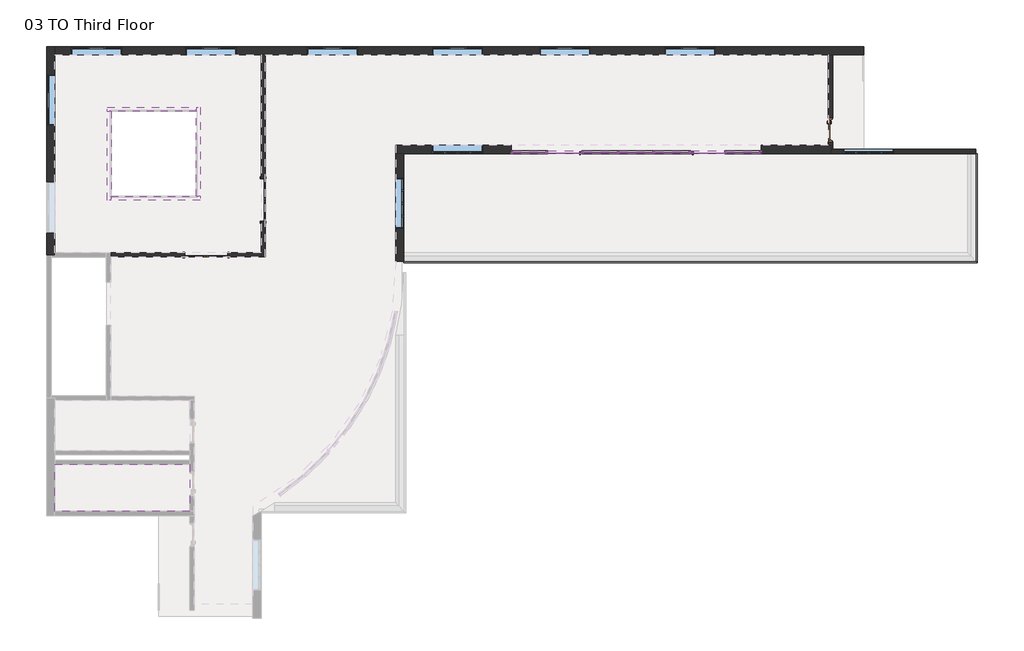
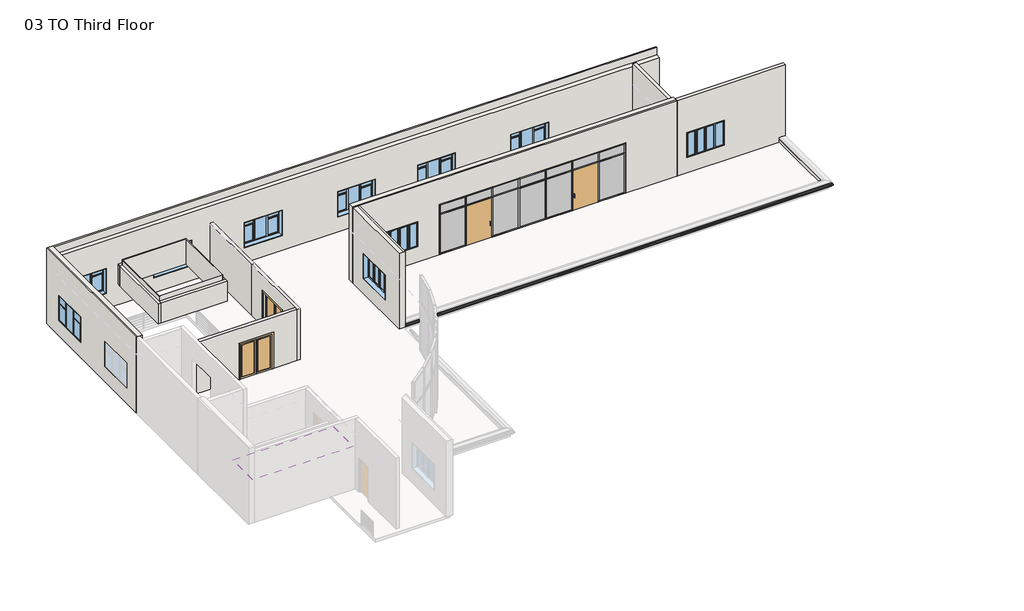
# One storey, part 2 of 3: 35 members, 15 walls, 12 plates, 10 windows, 5 doors, 2 proxies, 1 covering.
"""IFC4 building model written with IfcOpenShell, lengths in millimetres."""

from ifc_helpers import new_model, si_unit, frame, origin, place, context, project, spatial, polyline, outline, extrude, faceted_brep, transform, mapped, element, save
from components import door_curtain_wall_single_glass_single_glass_door_636c359d, door_curtain_wall_single_glass_single_glass_door_c1f067f7, door_38a2a0c9, door_c4c6d6d8, member_f0fea5a5, member_ee409385, member_5599eeff, member_9faf9a02, member_3e00a44d, member_1f7e5a3f, member_6e77e263, member_47bfaf8a, system_panel_glazed_c45153f5, system_panel_glazed_32f3d69c, system_panel_glazed_47a57bc4, system_panel_glazed_e930eb41, window_c7d59df6, window_634df5ac, window_casement_triple_side_transom_c3c25feb

model = new_model("IFC4")

# Units and contexts
model_context = context("Model", 3, world=origin())
ifc_project = project(units=[si_unit("LENGTHUNIT", "METRE", prefix="MILLI")], contexts=[model_context])

# Site, building, storey
site = spatial("IfcSite", under=ifc_project)
building = spatial("IfcBuilding", under=site)
storey = spatial("IfcBuildingStorey", under=building, Name="03 TO Third Floor", Elevation=9144.0)

# Proxies
placement = place(None, origin())
element("IfcBuildingElementProxy", 1, Name="Reveals", at=placement, inside=storey, context=model_context, shape_type="SweptSolid", body=[
    extrude(outline(polyline([(-4282.7273699, 39.4996638), (-4282.7273699, 131.5746638), (20075.8726301, 131.5746638), (20167.9476301, 39.4996638), (-4282.7273699, 39.4996638)])), frame((0.0, 0.0, 9220.2), z_axis=(0.0, 0.0, 1.0), x_axis=(1.0, 0.0, 0.0)), (0.0, 0.0, 1.0), 67.7333333),
])
element("IfcBuildingElementProxy", 2, Name="Reveals", at=placement, inside=storey, context=model_context, shape_type="SweptSolid", body=[
    extrude(outline(polyline([(20167.9476301, 39.4996638), (20075.8726301, 131.5746638), (20075.8726301, 4678.1746638), (20167.9476301, 4678.1746638), (20167.9476301, 39.4996638)])), frame((0.0, 0.0, 9220.2), z_axis=(0.0, 0.0, 1.0), x_axis=(1.0, 0.0, 0.0)), (0.0, 0.0, 1.0), 67.7333333),
])

# Covering
element("IfcCovering", 3, ObjectType="610mmx610mm ACT System", at=placement, inside=storey, context=model_context, shape_type="SweptSolid", body=[
    extrude(outline(polyline([(-13407.6773699, -10561.8253362), (-19167.1273699, -10561.8253362), (-19167.1273699, -8563.1628362), (-13407.6773699, -8563.1628362), (-13407.6773699, -10561.8253362)])), frame((0.0, 0.0, 11582.4), z_axis=(0.0, 0.0, 1.0), x_axis=(1.0, 0.0, 0.0)), (0.0, 0.0, 1.0), 57.15),
])

# Doors
door_curtain_wall_single_glass_single_glass_door_shape = door_curtain_wall_single_glass_single_glass_door_636c359d(model_context)
element("IfcDoor", 4, ObjectType="Door-Curtain-Wall-Single-Glass : Single Glass Door", at=placement, inside=storey, context=model_context, shape_type="MappedRepresentation", body=[
    mapped(door_curtain_wall_single_glass_single_glass_door_shape, transform((8671.2726299, 4741.6746638, 9144.0), x_axis=(1.0, 0.0, 0.0), y_axis=(0.0, 1.0, 0.0), z_axis=(0.0, 0.0, 1.0))),
])
door_curtain_wall_single_glass_single_glass_door_2_shape = door_curtain_wall_single_glass_single_glass_door_c1f067f7(model_context)
element("IfcDoor", 5, ObjectType="Door-Curtain-Wall-Single-Glass : Single Glass Door", at=placement, inside=storey, context=model_context, shape_type="MappedRepresentation", body=[
    mapped(door_curtain_wall_single_glass_single_glass_door_2_shape, transform((2575.2726302, 4741.6746638, 9144.0), x_axis=(-1.0, 0.0, 0.0), y_axis=(0.0, -1.0, 0.0), z_axis=(0.0, 0.0, 1.0))),
])
door_shape = door_38a2a0c9(model_context)
element("IfcDoor", 6, ObjectType="Door-Double-Glass : Door Double Glass_72\" x 84\"", at=placement, inside=storey, context=model_context, shape_type="MappedRepresentation", body=[
    mapped(door_shape, transform((-10289.0336199, 2706.4996638, 9144.0), x_axis=(0.0, -1.0, 0.0), y_axis=(1.0, 0.0, 0.0), z_axis=(0.0, 0.0, 1.0))),
])
element("IfcDoor", 7, ObjectType="Door-Double-Glass : Door Double Glass_72\" x 84\"", at=placement, inside=storey, context=model_context, shape_type="MappedRepresentation", body=[
    mapped(door_shape, transform((-12715.5273699, 372.0809138, 9144.0), x_axis=(-1.0, 0.0, 0.0), y_axis=(0.0, -1.0, 0.0), z_axis=(0.0, 0.0, 1.0))),
])
door_2_shape = door_c4c6d6d8(model_context)
element("IfcDoor", 8, ObjectType="Door-Passage-Single-Flush : Door Passage Single Flush_36\" x 80\"", at=placement, inside=storey, context=model_context, shape_type="MappedRepresentation", body=[
    mapped(door_2_shape, transform((13910.0226301, 5694.1746638, 9144.0), x_axis=(0.0, -1.0, 0.0), y_axis=(1.0, 0.0, 0.0), z_axis=(0.0, 0.0, 1.0))),
])

# Members
member_shape = member_f0fea5a5(model_context)
element("IfcMember", 9, ObjectType="Rectangular Mullion : 2.5\" x 5\" rectangular", at=placement, inside=storey, context=model_context, shape_type="MappedRepresentation", body=[
    mapped(member_shape, transform((1813.2726303, 4741.6746638, 9144.0), x_axis=(1.0, 0.0, 0.0), y_axis=(0.0, -1.0, 0.0), z_axis=(0.0, 0.0, -1.0))),
])
element("IfcMember", 10, ObjectType="Rectangular Mullion : 2.5\" x 5\" rectangular", at=placement, inside=storey, context=model_context, shape_type="MappedRepresentation", body=[
    mapped(member_shape, transform((3337.2726302, 4741.6746638, 9144.0), x_axis=(1.0, 0.0, 0.0), y_axis=(0.0, -1.0, 0.0), z_axis=(0.0, 0.0, -1.0))),
])
element("IfcMember", 11, ObjectType="Rectangular Mullion : 2.5\" x 5\" rectangular", at=placement, inside=storey, context=model_context, shape_type="MappedRepresentation", body=[
    mapped(member_shape, transform((4861.2726301, 4741.6746638, 9144.0), x_axis=(1.0, 0.0, 0.0), y_axis=(0.0, -1.0, 0.0), z_axis=(0.0, 0.0, -1.0))),
])
element("IfcMember", 12, ObjectType="Rectangular Mullion : 2.5\" x 5\" rectangular", at=placement, inside=storey, context=model_context, shape_type="MappedRepresentation", body=[
    mapped(member_shape, transform((6385.27263, 4741.6746638, 9144.0), x_axis=(1.0, 0.0, 0.0), y_axis=(0.0, -1.0, 0.0), z_axis=(0.0, 0.0, -1.0))),
])
element("IfcMember", 13, ObjectType="Rectangular Mullion : 2.5\" x 5\" rectangular", at=placement, inside=storey, context=model_context, shape_type="MappedRepresentation", body=[
    mapped(member_shape, transform((7909.2726299, 4741.6746638, 9144.0), x_axis=(1.0, 0.0, 0.0), y_axis=(0.0, -1.0, 0.0), z_axis=(0.0, 0.0, -1.0))),
])
element("IfcMember", 14, ObjectType="Rectangular Mullion : 2.5\" x 5\" rectangular", at=placement, inside=storey, context=model_context, shape_type="MappedRepresentation", body=[
    mapped(member_shape, transform((9433.2726298, 4741.6746638, 9144.0), x_axis=(1.0, 0.0, 0.0), y_axis=(0.0, -1.0, 0.0), z_axis=(0.0, 0.0, -1.0))),
])
member_2_shape = member_ee409385(model_context)
element("IfcMember", 15, ObjectType="Rectangular Mullion : 2.5\" x 5\" rectangular", at=placement, inside=storey, context=model_context, shape_type="MappedRepresentation", body=[
    mapped(member_2_shape, transform((10957.2726301, 4741.6746638, 9144.0), x_axis=(1.0, 0.0, 0.0), y_axis=(0.0, -1.0, 0.0), z_axis=(0.0, 0.0, -1.0))),
])
element("IfcMember", 16, ObjectType="Rectangular Mullion : 2.5\" x 5\" rectangular", at=placement, inside=storey, context=model_context, shape_type="MappedRepresentation", body=[
    mapped(member_2_shape, transform((289.2726301, 4741.6746638, 11582.4), x_axis=(-1.0, 0.0, 0.0), y_axis=(0.0, -1.0, 0.0), z_axis=(0.0, 0.0, 1.0))),
])
member_3_shape = member_5599eeff(model_context)
element("IfcMember", 17, ObjectType="Rectangular Mullion : 2.5\" x 5\" rectangular", at=placement, inside=storey, context=model_context, shape_type="MappedRepresentation", body=[
    mapped(member_3_shape, transform((10893.7726301, 4741.6746638, 12192.0), x_axis=(0.0, 0.0, 1.0), y_axis=(0.0, -1.0, 0.0), z_axis=(1.0, 0.0, 0.0))),
])
element("IfcMember", 18, ObjectType="Rectangular Mullion : 2.5\" x 5\" rectangular", at=placement, inside=storey, context=model_context, shape_type="MappedRepresentation", body=[
    mapped(member_3_shape, transform((1781.5226303, 4741.6746638, 12192.0), x_axis=(0.0, 0.0, 1.0), y_axis=(0.0, -1.0, 0.0), z_axis=(1.0, 0.0, 0.0))),
])
member_4_shape = member_9faf9a02(model_context)
element("IfcMember", 19, ObjectType="Rectangular Mullion : 2.5\" x 5\" rectangular", at=placement, inside=storey, context=model_context, shape_type="MappedRepresentation", body=[
    mapped(member_4_shape, transform((3305.5226302, 4741.6746638, 12192.0), x_axis=(0.0, 0.0, 1.0), y_axis=(0.0, -1.0, 0.0), z_axis=(1.0, 0.0, 0.0))),
])
element("IfcMember", 20, ObjectType="Rectangular Mullion : 2.5\" x 5\" rectangular", at=placement, inside=storey, context=model_context, shape_type="MappedRepresentation", body=[
    mapped(member_4_shape, transform((4829.5226301, 4741.6746638, 12192.0), x_axis=(0.0, 0.0, 1.0), y_axis=(0.0, -1.0, 0.0), z_axis=(1.0, 0.0, 0.0))),
])
element("IfcMember", 21, ObjectType="Rectangular Mullion : 2.5\" x 5\" rectangular", at=placement, inside=storey, context=model_context, shape_type="MappedRepresentation", body=[
    mapped(member_4_shape, transform((6353.52263, 4741.6746638, 12192.0), x_axis=(0.0, 0.0, 1.0), y_axis=(0.0, -1.0, 0.0), z_axis=(1.0, 0.0, 0.0))),
])
element("IfcMember", 22, ObjectType="Rectangular Mullion : 2.5\" x 5\" rectangular", at=placement, inside=storey, context=model_context, shape_type="MappedRepresentation", body=[
    mapped(member_4_shape, transform((7877.5226299, 4741.6746638, 12192.0), x_axis=(0.0, 0.0, 1.0), y_axis=(0.0, -1.0, 0.0), z_axis=(1.0, 0.0, 0.0))),
])
element("IfcMember", 23, ObjectType="Rectangular Mullion : 2.5\" x 5\" rectangular", at=placement, inside=storey, context=model_context, shape_type="MappedRepresentation", body=[
    mapped(member_4_shape, transform((9401.5226298, 4741.6746638, 12192.0), x_axis=(0.0, 0.0, 1.0), y_axis=(0.0, -1.0, 0.0), z_axis=(1.0, 0.0, 0.0))),
])
element("IfcMember", 24, ObjectType="Rectangular Mullion : 2.5\" x 5\" rectangular", at=placement, inside=storey, context=model_context, shape_type="MappedRepresentation", body=[
    mapped(member_3_shape, transform((352.7726301, 4741.6746638, 9144.0), x_axis=(0.0, 0.0, -1.0), y_axis=(0.0, -1.0, 0.0), z_axis=(-1.0, 0.0, 0.0))),
])
element("IfcMember", 25, ObjectType="Rectangular Mullion : 2.5\" x 5\" rectangular", at=placement, inside=storey, context=model_context, shape_type="MappedRepresentation", body=[
    mapped(member_3_shape, transform((9465.0226298, 4741.6746638, 9144.0), x_axis=(0.0, 0.0, -1.0), y_axis=(0.0, -1.0, 0.0), z_axis=(-1.0, 0.0, 0.0))),
])
element("IfcMember", 26, ObjectType="Rectangular Mullion : 2.5\" x 5\" rectangular", at=placement, inside=storey, context=model_context, shape_type="MappedRepresentation", body=[
    mapped(member_4_shape, transform((3369.0226302, 4741.6746638, 9144.0), x_axis=(0.0, 0.0, -1.0), y_axis=(0.0, -1.0, 0.0), z_axis=(-1.0, 0.0, 0.0))),
])
element("IfcMember", 27, ObjectType="Rectangular Mullion : 2.5\" x 5\" rectangular", at=placement, inside=storey, context=model_context, shape_type="MappedRepresentation", body=[
    mapped(member_4_shape, transform((4893.0226301, 4741.6746638, 9144.0), x_axis=(0.0, 0.0, -1.0), y_axis=(0.0, -1.0, 0.0), z_axis=(-1.0, 0.0, 0.0))),
])
element("IfcMember", 28, ObjectType="Rectangular Mullion : 2.5\" x 5\" rectangular", at=placement, inside=storey, context=model_context, shape_type="MappedRepresentation", body=[
    mapped(member_4_shape, transform((6417.02263, 4741.6746638, 9144.0), x_axis=(0.0, 0.0, -1.0), y_axis=(0.0, -1.0, 0.0), z_axis=(-1.0, 0.0, 0.0))),
])
member_5_shape = member_3e00a44d(model_context)
element("IfcMember", 29, ObjectType="Rectangular Mullion : 2.5\" x 5\" rectangular", at=placement, inside=storey, context=model_context, shape_type="MappedRepresentation", body=[
    mapped(member_5_shape, transform((1781.5226303, 4741.6746638, 11582.4), x_axis=(0.0, 0.0, 1.0), y_axis=(0.0, -1.0, 0.0), z_axis=(1.0, 0.0, 0.0))),
])
element("IfcMember", 30, ObjectType="Rectangular Mullion : 2.5\" x 5\" rectangular", at=placement, inside=storey, context=model_context, shape_type="MappedRepresentation", body=[
    mapped(member_5_shape, transform((10893.7726301, 4741.6746638, 11582.4), x_axis=(0.0, 0.0, 1.0), y_axis=(0.0, -1.0, 0.0), z_axis=(1.0, 0.0, 0.0))),
])
member_6_shape = member_1f7e5a3f(model_context)
element("IfcMember", 31, ObjectType="Rectangular Mullion : 2.5\" x 5\" rectangular", at=placement, inside=storey, context=model_context, shape_type="MappedRepresentation", body=[
    mapped(member_6_shape, transform((3305.5226302, 4741.6746638, 11582.4), x_axis=(0.0, 0.0, 1.0), y_axis=(0.0, -1.0, 0.0), z_axis=(1.0, 0.0, 0.0))),
])
element("IfcMember", 32, ObjectType="Rectangular Mullion : 2.5\" x 5\" rectangular", at=placement, inside=storey, context=model_context, shape_type="MappedRepresentation", body=[
    mapped(member_6_shape, transform((4829.5226301, 4741.6746638, 11582.4), x_axis=(0.0, 0.0, 1.0), y_axis=(0.0, -1.0, 0.0), z_axis=(1.0, 0.0, 0.0))),
])
element("IfcMember", 33, ObjectType="Rectangular Mullion : 2.5\" x 5\" rectangular", at=placement, inside=storey, context=model_context, shape_type="MappedRepresentation", body=[
    mapped(member_6_shape, transform((6353.52263, 4741.6746638, 11582.4), x_axis=(0.0, 0.0, 1.0), y_axis=(0.0, -1.0, 0.0), z_axis=(1.0, 0.0, 0.0))),
])
element("IfcMember", 34, ObjectType="Rectangular Mullion : 2.5\" x 5\" rectangular", at=placement, inside=storey, context=model_context, shape_type="MappedRepresentation", body=[
    mapped(member_6_shape, transform((7877.5226299, 4741.6746638, 11582.4), x_axis=(0.0, 0.0, 1.0), y_axis=(0.0, -1.0, 0.0), z_axis=(1.0, 0.0, 0.0))),
])
element("IfcMember", 35, ObjectType="Rectangular Mullion : 2.5\" x 5\" rectangular", at=placement, inside=storey, context=model_context, shape_type="MappedRepresentation", body=[
    mapped(member_6_shape, transform((9401.5226298, 4741.6746638, 11582.4), x_axis=(0.0, 0.0, 1.0), y_axis=(0.0, -1.0, 0.0), z_axis=(1.0, 0.0, 0.0))),
])
member_7_shape = member_6e77e263(model_context)
element("IfcMember", 36, ObjectType="Rectangular Mullion : 2.5\" x 5\" rectangular", at=placement, inside=storey, context=model_context, shape_type="MappedRepresentation", body=[
    mapped(member_7_shape, transform((1813.2726303, 4741.6746638, 11582.4), x_axis=(1.0, 0.0, 0.0), y_axis=(0.0, -1.0, 0.0), z_axis=(0.0, 0.0, -1.0))),
])
element("IfcMember", 37, ObjectType="Rectangular Mullion : 2.5\" x 5\" rectangular", at=placement, inside=storey, context=model_context, shape_type="MappedRepresentation", body=[
    mapped(member_7_shape, transform((3337.2726302, 4741.6746638, 11582.4), x_axis=(1.0, 0.0, 0.0), y_axis=(0.0, -1.0, 0.0), z_axis=(0.0, 0.0, -1.0))),
])
element("IfcMember", 38, ObjectType="Rectangular Mullion : 2.5\" x 5\" rectangular", at=placement, inside=storey, context=model_context, shape_type="MappedRepresentation", body=[
    mapped(member_7_shape, transform((4861.2726301, 4741.6746638, 11582.4), x_axis=(1.0, 0.0, 0.0), y_axis=(0.0, -1.0, 0.0), z_axis=(0.0, 0.0, -1.0))),
])
element("IfcMember", 39, ObjectType="Rectangular Mullion : 2.5\" x 5\" rectangular", at=placement, inside=storey, context=model_context, shape_type="MappedRepresentation", body=[
    mapped(member_7_shape, transform((6385.27263, 4741.6746638, 11582.4), x_axis=(1.0, 0.0, 0.0), y_axis=(0.0, -1.0, 0.0), z_axis=(0.0, 0.0, -1.0))),
])
element("IfcMember", 40, ObjectType="Rectangular Mullion : 2.5\" x 5\" rectangular", at=placement, inside=storey, context=model_context, shape_type="MappedRepresentation", body=[
    mapped(member_7_shape, transform((7909.2726299, 4741.6746638, 11582.4), x_axis=(1.0, 0.0, 0.0), y_axis=(0.0, -1.0, 0.0), z_axis=(0.0, 0.0, -1.0))),
])
element("IfcMember", 41, ObjectType="Rectangular Mullion : 2.5\" x 5\" rectangular", at=placement, inside=storey, context=model_context, shape_type="MappedRepresentation", body=[
    mapped(member_7_shape, transform((9433.2726298, 4741.6746638, 11582.4), x_axis=(1.0, 0.0, 0.0), y_axis=(0.0, -1.0, 0.0), z_axis=(0.0, 0.0, -1.0))),
])
member_8_shape = member_47bfaf8a(model_context)
element("IfcMember", 42, ObjectType="Rectangular Mullion : 2.5\" x 5\" rectangular", at=placement, inside=storey, context=model_context, shape_type="MappedRepresentation", body=[
    mapped(member_8_shape, transform((10957.2726301, 4741.6746638, 11582.4), x_axis=(1.0, 0.0, 0.0), y_axis=(0.0, -1.0, 0.0), z_axis=(0.0, 0.0, -1.0))),
])
element("IfcMember", 43, ObjectType="Rectangular Mullion : 2.5\" x 5\" rectangular", at=placement, inside=storey, context=model_context, shape_type="MappedRepresentation", body=[
    mapped(member_8_shape, transform((289.2726301, 4741.6746638, 12192.0), x_axis=(-1.0, 0.0, 0.0), y_axis=(0.0, -1.0, 0.0), z_axis=(0.0, 0.0, 1.0))),
])

# Plates
system_panel_glazed_shape = system_panel_glazed_c45153f5(model_context)
element("IfcPlate", 44, ObjectType="System Panel : Glazed", at=placement, inside=storey, context=model_context, shape_type="MappedRepresentation", body=[
    mapped(system_panel_glazed_shape, transform((1067.1476302, 4741.6746638, 9207.5), x_axis=(1.0, 0.0, 0.0), y_axis=(0.0, 1.0, 0.0), z_axis=(0.0, 0.0, 1.0))),
])
element("IfcPlate", 45, ObjectType="System Panel : Glazed", at=placement, inside=storey, context=model_context, shape_type="MappedRepresentation", body=[
    mapped(system_panel_glazed_shape, transform((10179.3976299, 4741.6746638, 9207.5), x_axis=(1.0, 0.0, 0.0), y_axis=(0.0, 1.0, 0.0), z_axis=(0.0, 0.0, 1.0))),
])
system_panel_glazed_2_shape = system_panel_glazed_32f3d69c(model_context)
element("IfcPlate", 46, ObjectType="System Panel : Glazed", at=placement, inside=storey, context=model_context, shape_type="MappedRepresentation", body=[
    mapped(system_panel_glazed_2_shape, transform((4099.2726301, 4741.6746638, 9207.5), x_axis=(1.0, 0.0, 0.0), y_axis=(0.0, 1.0, 0.0), z_axis=(0.0, 0.0, 1.0))),
])
element("IfcPlate", 47, ObjectType="System Panel : Glazed", at=placement, inside=storey, context=model_context, shape_type="MappedRepresentation", body=[
    mapped(system_panel_glazed_2_shape, transform((5623.2726301, 4741.6746638, 9207.5), x_axis=(1.0, 0.0, 0.0), y_axis=(0.0, 1.0, 0.0), z_axis=(0.0, 0.0, 1.0))),
])
element("IfcPlate", 48, ObjectType="System Panel : Glazed", at=placement, inside=storey, context=model_context, shape_type="MappedRepresentation", body=[
    mapped(system_panel_glazed_2_shape, transform((7147.27263, 4741.6746638, 9207.5), x_axis=(1.0, 0.0, 0.0), y_axis=(0.0, 1.0, 0.0), z_axis=(0.0, 0.0, 1.0))),
])
system_panel_glazed_3_shape = system_panel_glazed_47a57bc4(model_context)
element("IfcPlate", 49, ObjectType="System Panel : Glazed", at=placement, inside=storey, context=model_context, shape_type="MappedRepresentation", body=[
    mapped(system_panel_glazed_3_shape, transform((1067.1476302, 4741.6746638, 11614.15), x_axis=(1.0, 0.0, 0.0), y_axis=(0.0, 1.0, 0.0), z_axis=(0.0, 0.0, 1.0))),
])
element("IfcPlate", 50, ObjectType="System Panel : Glazed", at=placement, inside=storey, context=model_context, shape_type="MappedRepresentation", body=[
    mapped(system_panel_glazed_3_shape, transform((10179.3976299, 4741.6746638, 11614.15), x_axis=(1.0, 0.0, 0.0), y_axis=(0.0, 1.0, 0.0), z_axis=(0.0, 0.0, 1.0))),
])
system_panel_glazed_4_shape = system_panel_glazed_e930eb41(model_context)
element("IfcPlate", 51, ObjectType="System Panel : Glazed", at=placement, inside=storey, context=model_context, shape_type="MappedRepresentation", body=[
    mapped(system_panel_glazed_4_shape, transform((2575.2726302, 4741.6746638, 11614.15), x_axis=(1.0, 0.0, 0.0), y_axis=(0.0, 1.0, 0.0), z_axis=(0.0, 0.0, 1.0))),
])
element("IfcPlate", 52, ObjectType="System Panel : Glazed", at=placement, inside=storey, context=model_context, shape_type="MappedRepresentation", body=[
    mapped(system_panel_glazed_4_shape, transform((4099.2726301, 4741.6746638, 11614.15), x_axis=(1.0, 0.0, 0.0), y_axis=(0.0, 1.0, 0.0), z_axis=(0.0, 0.0, 1.0))),
])
element("IfcPlate", 53, ObjectType="System Panel : Glazed", at=placement, inside=storey, context=model_context, shape_type="MappedRepresentation", body=[
    mapped(system_panel_glazed_4_shape, transform((5623.2726301, 4741.6746638, 11614.15), x_axis=(1.0, 0.0, 0.0), y_axis=(0.0, 1.0, 0.0), z_axis=(0.0, 0.0, 1.0))),
])
element("IfcPlate", 54, ObjectType="System Panel : Glazed", at=placement, inside=storey, context=model_context, shape_type="MappedRepresentation", body=[
    mapped(system_panel_glazed_4_shape, transform((7147.27263, 4741.6746638, 11614.15), x_axis=(1.0, 0.0, 0.0), y_axis=(0.0, 1.0, 0.0), z_axis=(0.0, 0.0, 1.0))),
])
element("IfcPlate", 55, ObjectType="System Panel : Glazed", at=placement, inside=storey, context=model_context, shape_type="MappedRepresentation", body=[
    mapped(system_panel_glazed_4_shape, transform((8671.2726299, 4741.6746638, 11614.15), x_axis=(1.0, 0.0, 0.0), y_axis=(0.0, 1.0, 0.0), z_axis=(0.0, 0.0, 1.0))),
])

# Walls
element("IfcWall", 56, ObjectType="Ext Wall_Brick on CIP", at=placement, inside=storey, context=model_context, shape_type="Brep", body=[
    faceted_brep([(13903.6726301, 4678.1746638, 13716.0), (13903.6726301, 4678.1746638, 9144.0), (20101.2726301, 4678.1746638, 9144.0), (20101.2726301, 4678.1746638, 13716.0), (14449.7726301, 4678.1746638, 11582.4), (16608.7726301, 4678.1746638, 11582.4), (16608.7726301, 4678.1746638, 10058.4), (14449.7726301, 4678.1746638, 10058.4), (13903.6726301, 4881.3746638, 9144.0), (13903.6726301, 4881.3746638, 13411.2), (13903.6726301, 4881.3746638, 13716.0), (20101.2726301, 4881.3746638, 13716.0), (20101.2726301, 4881.3746638, 9144.0), (14005.2726301, 4881.3746638, 9144.0), (14449.7726301, 4881.3746638, 11582.4), (14449.7726301, 4881.3746638, 10058.4), (16608.7726301, 4881.3746638, 10058.4), (16608.7726301, 4881.3746638, 11582.4)], [[[0, 1, 2, 3], [4, 5, 6, 7]], [[8, 9, 10, 11, 12, 13], [14, 15, 16, 17]], [[2, 1, 8, 13, 12]], [[0, 3, 11, 10]], [[0, 10, 9, 8, 1]], [[15, 14, 4, 7]], [[16, 15, 7, 6]], [[17, 16, 6, 5]], [[14, 17, 5, 4]], [[3, 2, 12, 11]]]),
])
element("IfcWall", 57, ObjectType="Ext Wall_Brick on CMU", at=placement, inside=storey, context=model_context, shape_type="Brep", body=[
    faceted_brep([(-19167.1273699, 8894.5746638, 9144.0), (-10378.7273699, 8894.5746638, 9144.0), (-10331.1023699, 8894.5746638, 9144.0), (-10194.5773699, 8894.5746638, 9144.0), (15326.0726301, 8894.5746638, 9144.0), (15326.0726301, 8894.5746638, 13258.8), (-19167.1273699, 8894.5746638, 13258.8), (8988.7726301, 8894.5746638, 11582.4), (8988.7726301, 8894.5746638, 10058.4), (6829.7726301, 8894.5746638, 10058.4), (6829.7726301, 8894.5746638, 11582.4), (3654.7726301, 8894.5746638, 11582.4), (3654.7726301, 8894.5746638, 10058.4), (1495.7726301, 8894.5746638, 10058.4), (1495.7726301, 8894.5746638, 11582.4), (-917.2273699, 8894.5746638, 11582.4), (-917.2273699, 8894.5746638, 10058.4), (-3076.2273699, 8894.5746638, 10058.4), (-3076.2273699, 8894.5746638, 11582.4), (-16309.6273699, 8894.5746638, 11582.4), (-16309.6273699, 8894.5746638, 10058.4), (-18468.6273699, 8894.5746638, 10058.4), (-18468.6273699, 8894.5746638, 11582.4), (-11432.8273699, 8894.5746638, 11582.4), (-11432.8273699, 8894.5746638, 10058.4), (-13591.8273699, 8894.5746638, 10058.4), (-13591.8273699, 8894.5746638, 11582.4), (-6251.2273699, 8894.5746638, 11582.4), (-6251.2273699, 8894.5746638, 10058.4), (-8410.2273699, 8894.5746638, 10058.4), (-8410.2273699, 8894.5746638, 11582.4), (-19167.1273699, 9250.1746638, 9144.0), (-19167.1273699, 9250.1746638, 13716.0), (15326.0726301, 9250.1746638, 13716.0), (15326.0726301, 9250.1746638, 9144.0), (-10331.1023699, 9250.1746638, 9144.0), (8988.7726301, 9250.1746638, 11582.4), (6829.7726301, 9250.1746638, 11582.4), (6829.7726301, 9250.1746638, 10058.4), (8988.7726301, 9250.1746638, 10058.4), (3654.7726301, 9250.1746638, 11582.4), (1495.7726301, 9250.1746638, 11582.4), (1495.7726301, 9250.1746638, 10058.4), (3654.7726301, 9250.1746638, 10058.4), (-917.2273699, 9250.1746638, 11582.4), (-3076.2273699, 9250.1746638, 11582.4), (-3076.2273699, 9250.1746638, 10058.4), (-917.2273699, 9250.1746638, 10058.4), (-16309.6273699, 9250.1746638, 11582.4), (-18468.6273699, 9250.1746638, 11582.4), (-18468.6273699, 9250.1746638, 10058.4), (-16309.6273699, 9250.1746638, 10058.4), (-11432.8273699, 9250.1746638, 11582.4), (-13591.8273699, 9250.1746638, 11582.4), (-13591.8273699, 9250.1746638, 10058.4), (-11432.8273699, 9250.1746638, 10058.4), (-6251.2273699, 9250.1746638, 11582.4), (-8410.2273699, 9250.1746638, 11582.4), (-8410.2273699, 9250.1746638, 10058.4), (-6251.2273699, 9250.1746638, 10058.4), (15326.0726301, 9173.9746638, 9144.0), (15326.0726301, 9173.9746638, 13716.0), (15326.0726301, 9173.9746638, 13258.8), (-19167.1273699, 9173.9746638, 13258.8), (-19167.1273699, 9173.9746638, 13716.0), (-19167.1273699, 9173.9746638, 9144.0)], [[[0, 1, 2, 3, 4, 5, 6], [7, 8, 9, 10], [11, 12, 13, 14], [15, 16, 17, 18], [19, 20, 21, 22], [23, 24, 25, 26], [27, 28, 29, 30]], [[31, 32, 33, 34, 35], [36, 37, 38, 39], [40, 41, 42, 43], [44, 45, 46, 47], [48, 49, 50, 51], [52, 53, 54, 55], [56, 57, 58, 59]], [[5, 4, 60, 34, 33, 61, 62]], [[0, 6, 63, 64, 32, 31, 65]], [[8, 7, 36, 39]], [[9, 8, 39, 38]], [[10, 9, 38, 37]], [[7, 10, 37, 36]], [[12, 11, 40, 43]], [[13, 12, 43, 42]], [[14, 13, 42, 41]], [[11, 14, 41, 40]], [[16, 15, 44, 47]], [[17, 16, 47, 46]], [[18, 17, 46, 45]], [[15, 18, 45, 44]], [[20, 19, 48, 51]], [[21, 20, 51, 50]], [[22, 21, 50, 49]], [[19, 22, 49, 48]], [[24, 23, 52, 55]], [[25, 24, 55, 54]], [[26, 25, 54, 53]], [[23, 26, 53, 52]], [[28, 27, 56, 59]], [[29, 28, 59, 58]], [[30, 29, 58, 57]], [[27, 30, 57, 56]], [[4, 3, 2, 1, 0, 65, 60]], [[65, 31, 35, 34, 60]], [[61, 33, 32, 64]], [[63, 62, 61, 64]], [[6, 5, 62, 63]]]),
])
element("IfcWall", 58, ObjectType="Ext Wall_Brick on CMU", at=placement, inside=storey, context=model_context, shape_type="Brep", body=[
    faceted_brep([(-4638.3273699, 5033.7746638, 9144.0), (-4638.3273699, 5033.7746638, 13716.0), (13903.6726301, 5033.7746638, 13716.0), (13903.6726301, 5033.7746638, 9144.0), (10957.2726301, 5033.7746638, 9144.0), (10957.2726301, 5033.7746638, 12192.0), (289.2726301, 5033.7746638, 12192.0), (289.2726301, 5033.7746638, 9144.0), (-3076.2273699, 5033.7746638, 11582.4), (-3076.2273699, 5033.7746638, 10058.4), (-917.2273699, 5033.7746638, 10058.4), (-917.2273699, 5033.7746638, 11582.4), (13903.6726301, 4678.1746638, 13716.0), (-4282.7273699, 4678.1746638, 13716.0), (-4638.3273699, 4678.1746638, 13716.0), (-4638.3273699, 4678.1746638, 9144.0), (-4282.7273699, 4678.1746638, 9144.0), (289.2726301, 4678.1746638, 9144.0), (289.2726301, 4678.1746638, 12192.0), (10957.2726301, 4678.1746638, 12192.0), (10957.2726301, 4678.1746638, 9144.0), (13903.6726301, 4678.1746638, 9144.0), (-3076.2273699, 4678.1746638, 11582.4), (-917.2273699, 4678.1746638, 11582.4), (-917.2273699, 4678.1746638, 10058.4), (-3076.2273699, 4678.1746638, 10058.4), (-4638.3273699, 4754.3746638, 9144.0), (-4638.3273699, 4754.3746638, 13716.0), (289.2726301, 4754.3746638, 9144.0), (10957.2726301, 4754.3746638, 9144.0), (13903.6726301, 4754.3746638, 13716.0), (13903.6726301, 4754.3746638, 9144.0)], [[[0, 1, 2, 3, 4, 5, 6, 7], [8, 9, 10, 11]], [[12, 13, 14, 15, 16, 17, 18, 19, 20, 21], [22, 23, 24, 25]], [[1, 0, 26, 15, 14, 27]], [[6, 18, 17, 28, 7]], [[19, 5, 4, 29, 20]], [[5, 19, 18, 6]], [[9, 8, 22, 25]], [[10, 9, 25, 24]], [[11, 10, 24, 23]], [[8, 11, 23, 22]], [[3, 2, 30, 12, 21, 31]], [[26, 0, 7, 28]], [[3, 31, 29, 4]], [[31, 21, 20, 29]], [[15, 26, 28, 17, 16]], [[14, 13, 12, 30, 27]], [[2, 1, 27, 30]]]),
])
element("IfcWall", 59, ObjectType="Ext Wall_Brick on CMU", at=placement, inside=storey, context=model_context, shape_type="Brep", body=[
    faceted_brep([(-4638.3273699, 4678.1746638, 9144.0), (-4638.3273699, 102.363521, 9144.0), (-4638.3273699, 102.363521, 13716.0), (-4638.3273699, 4678.1746638, 13716.0), (-4638.3273699, 1490.4746638, 11582.4), (-4638.3273699, 1490.4746638, 10058.4), (-4638.3273699, 3649.4746638, 10058.4), (-4638.3273699, 3649.4746638, 11582.4), (-4282.7273699, 4678.1746638, 9144.0), (-4282.7273699, 4678.1746638, 13716.0), (-4282.7273699, 106.1746638, 13716.0), (-4282.7273699, 106.1746638, 9287.9333333), (-4282.7273699, 106.1746638, 9220.2), (-4282.7273699, 106.1746638, 9144.0), (-4282.7273699, 461.7746638, 9144.0), (-4282.7273699, 1490.4746638, 11582.4), (-4282.7273699, 3649.4746638, 11582.4), (-4282.7273699, 3649.4746638, 10058.4), (-4282.7273699, 1490.4746638, 10058.4), (-4358.9273699, 4678.1746638, 13716.0), (-4358.9273699, 4678.1746638, 9144.0), (-4358.9273699, 105.3579904, 9144.0), (-4358.9273699, 105.3579904, 13716.0)], [[[0, 1, 2, 3], [4, 5, 6, 7]], [[8, 9, 10, 11, 12, 13, 14], [15, 16, 17, 18]], [[0, 3, 19, 9, 8, 20]], [[2, 1, 21, 13, 12, 11, 10, 22]], [[5, 4, 15, 18]], [[6, 5, 18, 17]], [[7, 6, 17, 16]], [[4, 7, 16, 15]], [[1, 0, 20, 21]], [[20, 8, 14, 13, 21]], [[22, 10, 9, 19]], [[3, 2, 22, 19]]]),
])
element("IfcWall", 60, ObjectType="Ext Wall_Brick on CMU", at=placement, inside=storey, context=model_context, shape_type="Brep", body=[
    faceted_brep([(-19167.1273699, 360.1746638, 13716.0), (-19167.1273699, 360.1746638, 9144.0), (-19167.1273699, 8894.5746638, 9144.0), (-19167.1273699, 9250.1746638, 9144.0), (-19167.1273699, 9250.1746638, 13716.0), (-19167.1273699, 9173.9746638, 13716.0), (-19167.1273699, 8043.6746638, 11582.4), (-19167.1273699, 8043.6746638, 10058.4), (-19167.1273699, 5884.6746638, 10058.4), (-19167.1273699, 5884.6746638, 11582.4), (-19167.1273699, 3471.6746638, 11582.4), (-19167.1273699, 3471.6746638, 10058.4), (-19167.1273699, 1312.6746638, 10058.4), (-19167.1273699, 1312.6746638, 11582.4), (-19522.7273699, 360.1746638, 9144.0), (-19522.7273699, 360.1746638, 13716.0), (-19522.7273699, 9250.1746638, 13716.0), (-19522.7273699, 9250.1746638, 9144.0), (-19522.7273699, 8043.6746638, 11582.4), (-19522.7273699, 5884.6746638, 11582.4), (-19522.7273699, 5884.6746638, 10058.4), (-19522.7273699, 8043.6746638, 10058.4), (-19522.7273699, 3471.6746638, 11582.4), (-19522.7273699, 1312.6746638, 11582.4), (-19522.7273699, 1312.6746638, 10058.4), (-19522.7273699, 3471.6746638, 10058.4), (-19446.5273699, 9250.1746638, 9144.0), (-19446.5273699, 9250.1746638, 13716.0), (-19319.5273699, 360.1746638, 9144.0), (-19446.5273699, 360.1746638, 9144.0), (-19319.5273699, 360.1746638, 13716.0), (-19446.5273699, 360.1746638, 13716.0)], [[[0, 1, 2, 3, 4, 5], [6, 7, 8, 9], [10, 11, 12, 13]], [[14, 15, 16, 17], [18, 19, 20, 21], [22, 23, 24, 25]], [[4, 3, 26, 17, 16, 27]], [[3, 2, 1, 28, 29, 26]], [[29, 14, 17, 26]], [[6, 9, 19, 18]], [[9, 8, 20, 19]], [[8, 7, 21, 20]], [[7, 6, 18, 21]], [[10, 13, 23, 22]], [[13, 12, 24, 23]], [[12, 11, 25, 24]], [[11, 10, 22, 25]], [[0, 30, 31, 15, 14, 29, 28, 1]], [[27, 16, 15, 31]], [[0, 5, 4, 27, 31, 30]]]),
])
element("IfcWall", 61, ObjectType="Ext Wall_Parapet_Brick on CMU", at=placement, inside=storey, context=model_context, shape_type="Brep", body=[
    faceted_brep([(-4282.7273699, 106.1746638, 9144.0), (20101.2726301, 106.1746638, 9144.0), (20101.2726301, 106.1746638, 9220.2), (-4282.7273699, 106.1746638, 9220.2), (20101.2726301, 106.1746638, 9347.2), (-4282.7273699, 106.1746638, 9347.2), (-4282.7273699, 106.1746638, 9287.9333333), (20101.2726301, 106.1746638, 9287.9333333), (20101.2726301, 461.7746638, 9144.0), (19745.6726301, 461.7746638, 9144.0), (-4282.7273699, 461.7746638, 9144.0), (-4282.7273699, 461.7746638, 9347.2), (19745.6726301, 461.7746638, 9347.2), (20101.2726301, 461.7746638, 9347.2), (20101.2726301, 461.7746638, 9287.9333333), (20075.8726301, 461.7746638, 9287.9333333), (20075.8726301, 461.7746638, 9220.2), (20101.2726301, 461.7746638, 9220.2), (-4282.7273699, 131.5746638, 9220.2), (-4282.7273699, 131.5746638, 9287.9333333), (20075.8726301, 131.5746638, 9287.9333333), (20075.8726301, 131.5746638, 9220.2)], [[[0, 1, 2, 3]], [[4, 5, 6, 7]], [[8, 9, 10, 11, 12, 13, 14, 15, 16, 17]], [[1, 0, 10, 9, 8]], [[5, 4, 13, 12, 11]], [[1, 8, 17, 2]], [[13, 4, 7, 14]], [[5, 11, 10, 0, 3, 18, 19, 6]], [[20, 19, 18, 21]], [[21, 18, 3, 2, 17, 16]], [[19, 20, 15, 14, 7, 6]], [[20, 21, 16, 15]]]),
])
element("IfcWall", 62, ObjectType="Ext Wall_Parapet_Brick on CMU", at=placement, inside=storey, context=model_context, shape_type="SweptSolid", body=[
    extrude(outline(polyline([(9347.2, 20101.2726301), (9347.2, 19745.6726301), (9144.0, 19745.6726301), (9144.0, 20101.2726301), (9220.2, 20101.2726301), (9220.2, 20075.8726301), (9287.9333333, 20075.8726301), (9287.9333333, 20101.2726301), (9347.2, 20101.2726301)])), frame((0.0, 461.7746638, 0.0), z_axis=(0.0, 1.0, 0.0), x_axis=(0.0, 0.0, 1.0)), (0.0, 0.0, 1.0), 4216.4),
])
element("IfcWall", 63, ObjectType="IntWall_P1", at=placement, inside=storey, context=model_context, shape_type="SweptSolid", body=[
    extrude(outline(polyline([(-10194.5773699, 8894.5746638), (-10194.5773699, 4770.2496638), (-10378.7273699, 4770.2496638), (-10378.7273699, 8894.5746638), (-10194.5773699, 8894.5746638)])), frame((0.0, 0.0, 9144.0), z_axis=(0.0, 0.0, 1.0), x_axis=(1.0, 0.0, 0.0)), (0.0, 0.0, 1.0), 3098.8),
])
element("IfcWall", 64, ObjectType="IntWall_P1", at=placement, inside=storey, context=model_context, shape_type="Brep", body=[
    faceted_brep([(-10378.7273699, 1792.0996638, 11277.6), (-10378.7273699, 1792.0996638, 9144.0), (-10378.7273699, 461.7746638, 9144.0), (-10378.7273699, 277.6246638, 9144.0), (-10378.7273699, 277.6246638, 12242.8), (-10378.7273699, 461.7746638, 12242.8), (-10378.7273699, 4770.2496638, 12242.8), (-10378.7273699, 4770.2496638, 9144.0), (-10378.7273699, 3620.8996638, 9144.0), (-10378.7273699, 3620.8996638, 11277.6), (-10194.5773699, 277.6246638, 9144.0), (-10194.5773699, 1792.0996638, 9144.0), (-10194.5773699, 1792.0996638, 11277.6), (-10194.5773699, 3620.8996638, 11277.6), (-10194.5773699, 3620.8996638, 9144.0), (-10194.5773699, 4770.2496638, 9144.0), (-10194.5773699, 4770.2496638, 12242.8), (-10194.5773699, 277.6246638, 12242.8)], [[[0, 1, 2, 3, 4, 5, 6, 7, 8, 9]], [[10, 11, 12, 13, 14, 15, 16, 17]], [[8, 7, 15, 14]], [[3, 2, 1, 11, 10]], [[6, 5, 4, 17, 16]], [[7, 6, 16, 15]], [[4, 3, 10, 17]], [[12, 11, 1, 0]], [[13, 12, 0, 9]], [[14, 13, 9, 8]]]),
])
element("IfcWall", 65, ObjectType="IntWall_P1", at=placement, inside=storey, context=model_context, shape_type="SweptSolid", body=[
    extrude(outline(polyline([(9144.0, -16779.5273699), (9144.0, -13629.9273699), (11277.6, -13629.9273699), (11277.6, -11801.1273699), (9144.0, -11801.1273699), (9144.0, -10378.7273699), (12242.8, -10378.7273699), (12242.8, -16779.5273699), (9144.0, -16779.5273699)])), frame((0.0, 277.6246638, 0.0), z_axis=(0.0, 1.0, 0.0), x_axis=(0.0, 0.0, 1.0)), (0.0, 0.0, 1.0), 184.15),
])
element("IfcWall", 66, ObjectType="IntWall_P2", at=placement, inside=storey, context=model_context, shape_type="Brep", body=[
    faceted_brep([(-16928.7523699, 6487.9246638, 12192.0), (-16760.4773699, 6487.9246638, 12192.0), (-13140.9773699, 6487.9246638, 12192.0), (-13140.9773699, 6487.9246638, 13716.0), (-16760.4773699, 6487.9246638, 13716.0), (-16776.3523699, 6487.9246638, 13716.0), (-16776.3523699, 6487.9246638, 13411.2), (-16928.7523699, 6487.9246638, 13411.2), (-13140.9773699, 6656.1996638, 12192.0), (-16928.7523699, 6656.1996638, 12192.0), (-16928.7523699, 6656.1996638, 13411.2), (-13140.9773699, 6656.1996638, 13411.2), (-13140.9773699, 6503.7996638, 13411.2), (-13140.9773699, 6503.7996638, 13716.0), (-16776.3523699, 6503.7996638, 13411.2), (-16776.3523699, 6503.7996638, 13716.0)], [[[0, 1, 2, 3, 4, 5, 6, 7]], [[8, 9, 10, 11]], [[2, 1, 0, 9, 8]], [[7, 10, 9, 0]], [[3, 2, 8, 11, 12, 13]], [[11, 10, 7, 6, 14, 12]], [[13, 12, 14, 15]], [[3, 13, 15, 5, 4]], [[14, 6, 5, 15]]]),
])
element("IfcWall", 67, ObjectType="IntWall_P2", at=placement, inside=storey, context=model_context, shape_type="Brep", body=[
    faceted_brep([(-16760.4773699, 2700.1496638, 12192.0), (-16760.4773699, 2868.4246638, 12192.0), (-16760.4773699, 6487.9246638, 12192.0), (-16760.4773699, 6487.9246638, 13716.0), (-16760.4773699, 2868.4246638, 13716.0), (-16760.4773699, 2852.5496638, 13716.0), (-16760.4773699, 2852.5496638, 13411.2), (-16760.4773699, 2700.1496638, 13411.2), (-16928.7523699, 6487.9246638, 12192.0), (-16928.7523699, 2700.1496638, 12192.0), (-16928.7523699, 2700.1496638, 13411.2), (-16928.7523699, 6487.9246638, 13411.2), (-16776.3523699, 6487.9246638, 13411.2), (-16776.3523699, 6487.9246638, 13716.0), (-16776.3523699, 2852.5496638, 13411.2), (-16776.3523699, 2852.5496638, 13716.0)], [[[0, 1, 2, 3, 4, 5, 6, 7]], [[8, 9, 10, 11]], [[2, 1, 0, 9, 8]], [[7, 10, 9, 0]], [[3, 2, 8, 11, 12, 13]], [[11, 10, 7, 6, 14, 12]], [[13, 12, 14, 15]], [[3, 13, 15, 5, 4]], [[14, 6, 5, 15]]]),
])
element("IfcWall", 68, ObjectType="IntWall_P2", at=placement, inside=storey, context=model_context, shape_type="Brep", body=[
    faceted_brep([(-12972.7023699, 2868.4246638, 12192.0), (-13140.9773699, 2868.4246638, 12192.0), (-16760.4773699, 2868.4246638, 12192.0), (-16760.4773699, 2868.4246638, 13716.0), (-13140.9773699, 2868.4246638, 13716.0), (-13125.1023699, 2868.4246638, 13716.0), (-13125.1023699, 2868.4246638, 13411.2), (-12972.7023699, 2868.4246638, 13411.2), (-16760.4773699, 2700.1496638, 12192.0), (-12972.7023699, 2700.1496638, 12192.0), (-12972.7023699, 2700.1496638, 13411.2), (-16760.4773699, 2700.1496638, 13411.2), (-16760.4773699, 2852.5496638, 13411.2), (-16760.4773699, 2852.5496638, 13716.0), (-13125.1023699, 2852.5496638, 13411.2), (-13125.1023699, 2852.5496638, 13716.0)], [[[0, 1, 2, 3, 4, 5, 6, 7]], [[8, 9, 10, 11]], [[2, 1, 0, 9, 8]], [[7, 10, 9, 0]], [[3, 2, 8, 11, 12, 13]], [[11, 10, 7, 6, 14, 12]], [[13, 12, 14, 15]], [[3, 13, 15, 5, 4]], [[14, 6, 5, 15]]]),
])
element("IfcWall", 69, ObjectType="IntWall_P2", at=placement, inside=storey, context=model_context, shape_type="Brep", body=[
    faceted_brep([(-13140.9773699, 6656.1996638, 12192.0), (-13140.9773699, 6487.9246638, 12192.0), (-13140.9773699, 2868.4246638, 12192.0), (-13140.9773699, 2868.4246638, 13716.0), (-13140.9773699, 6487.9246638, 13716.0), (-13140.9773699, 6503.7996638, 13716.0), (-13140.9773699, 6503.7996638, 13411.2), (-13140.9773699, 6656.1996638, 13411.2), (-12972.7023699, 2868.4246638, 12192.0), (-12972.7023699, 6656.1996638, 12192.0), (-12972.7023699, 6656.1996638, 13411.2), (-12972.7023699, 2868.4246638, 13411.2), (-13125.1023699, 2868.4246638, 13411.2), (-13125.1023699, 2868.4246638, 13716.0), (-13125.1023699, 6503.7996638, 13411.2), (-13125.1023699, 6503.7996638, 13716.0)], [[[0, 1, 2, 3, 4, 5, 6, 7]], [[8, 9, 10, 11]], [[2, 1, 0, 9, 8]], [[7, 10, 9, 0]], [[3, 2, 8, 11, 12, 13]], [[11, 10, 7, 6, 14, 12]], [[13, 12, 14, 15]], [[3, 13, 15, 5, 4]], [[14, 6, 5, 15]]]),
])
element("IfcWall", 70, ObjectType="Shear Wall_S1", at=placement, inside=storey, context=model_context, shape_type="Brep", body=[
    faceted_brep([(13802.0726301, 5033.7746638, 13411.2), (13802.0726301, 8894.5746638, 13411.2), (13802.0726301, 8894.5746638, 9144.0), (13802.0726301, 6202.1746638, 9144.0), (13802.0726301, 6202.1746638, 11277.6), (13802.0726301, 5186.1746638, 11277.6), (13802.0726301, 5186.1746638, 9144.0), (13802.0726301, 5033.7746638, 9144.0), (14005.2726301, 4881.3746638, 13411.2), (14005.2726301, 4881.3746638, 9144.0), (14005.2726301, 5186.1746638, 9144.0), (14005.2726301, 5186.1746638, 11277.6), (14005.2726301, 6202.1746638, 11277.6), (14005.2726301, 6202.1746638, 9144.0), (14005.2726301, 8894.5746638, 9144.0), (14005.2726301, 8894.5746638, 13411.2), (13903.6726301, 4881.3746638, 9144.0), (13903.6726301, 5033.7746638, 9144.0), (13903.6726301, 5033.7746638, 13411.2), (13903.6726301, 4881.3746638, 13411.2)], [[[0, 1, 2, 3, 4, 5, 6, 7]], [[8, 9, 10, 11, 12, 13, 14, 15]], [[2, 14, 13, 3]], [[9, 16, 17, 7, 6, 10]], [[1, 0, 18, 19, 8, 15]], [[2, 1, 15, 14]], [[0, 7, 17, 18]], [[17, 16, 19, 18]], [[9, 8, 19, 16]], [[5, 11, 10, 6]], [[11, 5, 4, 12]], [[12, 4, 3, 13]]]),
])

# Windows
window_shape = window_c7d59df6(model_context)
element("IfcWindow", 71, ObjectType="Window-Casement-Multi-Sash-Horizontal : Multi Sash Window_A_85\" x 60\"", at=placement, inside=storey, context=model_context, shape_type="MappedRepresentation", body=[
    mapped(window_shape, transform((-1996.7273699, 4855.9746638, 9144.0), x_axis=(-1.0, 0.0, 0.0), y_axis=(0.0, -1.0, 0.0), z_axis=(0.0, 0.0, 1.0))),
])
element("IfcWindow", 72, ObjectType="Window-Casement-Multi-Sash-Horizontal : Multi Sash Window_A_85\" x 60\"", at=placement, inside=storey, context=model_context, shape_type="MappedRepresentation", body=[
    mapped(window_shape, transform((-4460.5273699, 2569.9746638, 9144.0), x_axis=(0.0, -1.0, 0.0), y_axis=(1.0, 0.0, 0.0), z_axis=(0.0, 0.0, 1.0))),
])
window_2_shape = window_634df5ac(model_context)
element("IfcWindow", 73, ObjectType="Window-Casement-Multi-Sash-Horizontal : Multi Sash Window_A_85\" x 60\"", at=placement, inside=storey, context=model_context, shape_type="MappedRepresentation", body=[
    mapped(window_2_shape, transform((15529.2726301, 4779.7746638, 9144.0), x_axis=(-1.0, 0.0, 0.0), y_axis=(0.0, -1.0, 0.0), z_axis=(0.0, 0.0, 1.0))),
])
window_casement_triple_side_transom_shape = window_casement_triple_side_transom_c3c25feb(model_context)
element("IfcWindow", 74, ObjectType="Window-Casement-Triple-Side-Transom : Triple Side WIndow_B_85\" x 60\"", at=placement, inside=storey, context=model_context, shape_type="MappedRepresentation", body=[
    mapped(window_casement_triple_side_transom_shape, transform((-1996.7273699, 9072.3746638, 9144.0), x_axis=(1.0, 0.0, 0.0), y_axis=(0.0, 1.0, 0.0), z_axis=(0.0, 0.0, 1.0))),
])
element("IfcWindow", 75, ObjectType="Window-Casement-Triple-Side-Transom : Triple Side WIndow_B_85\" x 60\"", at=placement, inside=storey, context=model_context, shape_type="MappedRepresentation", body=[
    mapped(window_casement_triple_side_transom_shape, transform((2575.2726301, 9072.3746638, 9144.0), x_axis=(1.0, 0.0, 0.0), y_axis=(0.0, 1.0, 0.0), z_axis=(0.0, 0.0, 1.0))),
])
element("IfcWindow", 76, ObjectType="Window-Casement-Triple-Side-Transom : Triple Side WIndow_B_85\" x 60\"", at=placement, inside=storey, context=model_context, shape_type="MappedRepresentation", body=[
    mapped(window_casement_triple_side_transom_shape, transform((7909.2726301, 9072.3746638, 9144.0), x_axis=(1.0, 0.0, 0.0), y_axis=(0.0, 1.0, 0.0), z_axis=(0.0, 0.0, 1.0))),
])
element("IfcWindow", 77, ObjectType="Window-Casement-Triple-Side-Transom : Triple Side WIndow_B_85\" x 60\"", at=placement, inside=storey, context=model_context, shape_type="MappedRepresentation", body=[
    mapped(window_casement_triple_side_transom_shape, transform((-12512.3273699, 9072.3746638, 9144.0), x_axis=(1.0, 0.0, 0.0), y_axis=(0.0, 1.0, 0.0), z_axis=(0.0, 0.0, 1.0))),
])
element("IfcWindow", 78, ObjectType="Window-Casement-Triple-Side-Transom : Triple Side WIndow_B_85\" x 60\"", at=placement, inside=storey, context=model_context, shape_type="MappedRepresentation", body=[
    mapped(window_casement_triple_side_transom_shape, transform((-17389.1273699, 9072.3746638, 9144.0), x_axis=(1.0, 0.0, 0.0), y_axis=(0.0, 1.0, 0.0), z_axis=(0.0, 0.0, 1.0))),
])
element("IfcWindow", 79, ObjectType="Window-Casement-Triple-Side-Transom : Triple Side WIndow_B_85\" x 60\"", at=placement, inside=storey, context=model_context, shape_type="MappedRepresentation", body=[
    mapped(window_casement_triple_side_transom_shape, transform((-19344.9273699, 6964.1746638, 9144.0), x_axis=(0.0, 1.0, 0.0), y_axis=(-1.0, 0.0, 0.0), z_axis=(0.0, 0.0, 1.0))),
])
element("IfcWindow", 80, ObjectType="Window-Casement-Triple-Side-Transom : Triple Side WIndow_B_85\" x 60\"", at=placement, inside=storey, context=model_context, shape_type="MappedRepresentation", body=[
    mapped(window_casement_triple_side_transom_shape, transform((-7330.7273699, 9072.3746638, 9144.0), x_axis=(1.0, 0.0, 0.0), y_axis=(0.0, 1.0, 0.0), z_axis=(0.0, 0.0, 1.0))),
])

save(model, "model.ifc")
